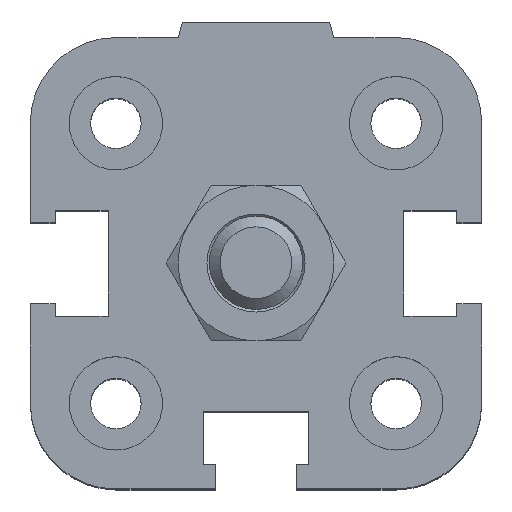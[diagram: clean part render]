
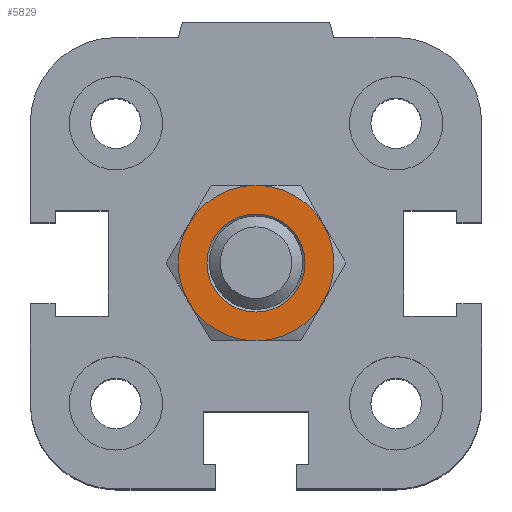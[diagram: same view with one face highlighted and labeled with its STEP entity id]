
A CAD part, top view. The second image highlights one B-rep face of the part: STEP entity #5829.
In plain terms, the highlighted planar face has unit normal (0, 0, 1).
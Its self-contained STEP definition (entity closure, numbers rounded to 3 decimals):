
#5192=CARTESIAN_POINT('',(3.15,0.0,4.0));
#5193=VERTEX_POINT('',#5192);
#5194=CARTESIAN_POINT('',(0.0,0.0,4.0));
#5195=DIRECTION('',(0.0,0.0,-1.0));
#5196=DIRECTION('',(1.0,0.0,0.0));
#5197=AXIS2_PLACEMENT_3D('',#5194,#5195,#5196);
#5198=CIRCLE('',#5197,3.15);
#5199=EDGE_CURVE('',#5193,#5193,#5198,.T.);
#5214=CARTESIAN_POINT('',(-4.33,2.5,4.0));
#5215=VERTEX_POINT('',#5214);
#5229=CARTESIAN_POINT('',(-4.33,-2.5,4.0));
#5230=VERTEX_POINT('',#5229);
#5244=CARTESIAN_POINT('',(0.0,0.0,4.0));
#5245=DIRECTION('',(0.0,0.0,1.0));
#5246=DIRECTION('',(-1.0,0.0,0.0));
#5247=AXIS2_PLACEMENT_3D('',#5244,#5245,#5246);
#5248=CIRCLE('',#5247,5.0);
#5249=EDGE_CURVE('',#5215,#5230,#5248,.T.);
#5261=CARTESIAN_POINT('',(0.0,5.0,4.0));
#5262=VERTEX_POINT('',#5261);
#5289=CARTESIAN_POINT('',(0.0,0.0,4.0));
#5290=DIRECTION('',(0.0,0.0,1.0));
#5291=DIRECTION('',(-1.0,0.0,0.0));
#5292=AXIS2_PLACEMENT_3D('',#5289,#5290,#5291);
#5293=CIRCLE('',#5292,5.0);
#5294=EDGE_CURVE('',#5262,#5215,#5293,.T.);
#5306=CARTESIAN_POINT('',(4.33,2.5,4.0));
#5307=VERTEX_POINT('',#5306);
#5334=CARTESIAN_POINT('',(0.0,0.0,4.0));
#5335=DIRECTION('',(0.0,0.0,1.0));
#5336=DIRECTION('',(-1.0,0.0,0.0));
#5337=AXIS2_PLACEMENT_3D('',#5334,#5335,#5336);
#5338=CIRCLE('',#5337,5.0);
#5339=EDGE_CURVE('',#5307,#5262,#5338,.T.);
#5364=CARTESIAN_POINT('',(4.33,-2.5,4.0));
#5365=VERTEX_POINT('',#5364);
#5366=CARTESIAN_POINT('',(0.0,0.0,4.0));
#5367=DIRECTION('',(0.0,0.0,1.0));
#5368=DIRECTION('',(-1.0,0.0,0.0));
#5369=AXIS2_PLACEMENT_3D('',#5366,#5367,#5368);
#5370=CIRCLE('',#5369,5.0);
#5371=EDGE_CURVE('',#5365,#5307,#5370,.T.);
#5409=CARTESIAN_POINT('',(0.,-5.,4.0));
#5410=VERTEX_POINT('',#5409);
#5411=CARTESIAN_POINT('',(0.0,0.0,4.0));
#5412=DIRECTION('',(0.0,0.0,1.0));
#5413=DIRECTION('',(-1.0,0.0,0.0));
#5414=AXIS2_PLACEMENT_3D('',#5411,#5412,#5413);
#5415=CIRCLE('',#5414,5.0);
#5416=EDGE_CURVE('',#5410,#5365,#5415,.T.);
#5454=CARTESIAN_POINT('',(0.0,0.0,4.0));
#5455=DIRECTION('',(0.0,0.0,1.0));
#5456=DIRECTION('',(-1.0,0.0,0.0));
#5457=AXIS2_PLACEMENT_3D('',#5454,#5455,#5456);
#5458=CIRCLE('',#5457,5.0);
#5459=EDGE_CURVE('',#5230,#5410,#5458,.T.);
#5813=CARTESIAN_POINT('',(0.,0.,4.0));
#5814=DIRECTION('',(0.0,0.0,1.0));
#5815=DIRECTION('',(1.0,0.0,0.0));
#5816=AXIS2_PLACEMENT_3D('',#5813,#5814,#5815);
#5817=PLANE('',#5816);
#5818=ORIENTED_EDGE('',*,*,#5459,.T.);
#5819=ORIENTED_EDGE('',*,*,#5416,.T.);
#5820=ORIENTED_EDGE('',*,*,#5371,.T.);
#5821=ORIENTED_EDGE('',*,*,#5339,.T.);
#5822=ORIENTED_EDGE('',*,*,#5294,.T.);
#5823=ORIENTED_EDGE('',*,*,#5249,.T.);
#5824=EDGE_LOOP('',(#5818,#5819,#5820,#5821,#5822,#5823));
#5825=FACE_OUTER_BOUND('',#5824,.T.);
#5826=ORIENTED_EDGE('',*,*,#5199,.T.);
#5827=EDGE_LOOP('',(#5826));
#5828=FACE_BOUND('',#5827,.T.);
#5829=ADVANCED_FACE('',(#5825,#5828),#5817,.T.);
